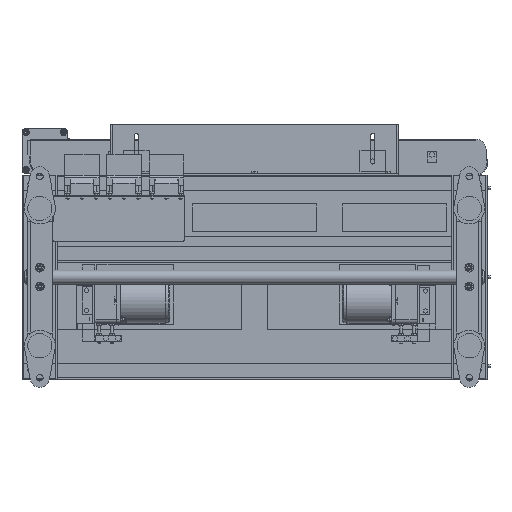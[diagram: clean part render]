
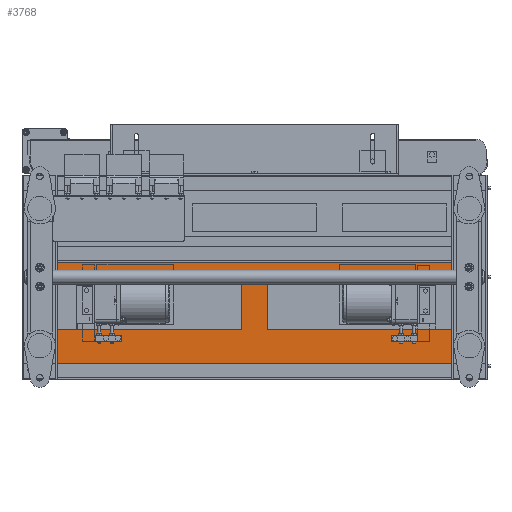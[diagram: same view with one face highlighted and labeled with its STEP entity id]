
A CAD part, front view. The second image highlights one B-rep face of the part: STEP entity #3768.
In plain terms, the highlighted planar face has unit normal (0, -1, 0).
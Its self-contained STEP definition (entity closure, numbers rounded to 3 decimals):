
#3768=ADVANCED_FACE('',(#10054,#10055,#10056),#10053,.T.);
#10053=PLANE('',#34744);
#10054=FACE_OUTER_BOUND('',#34745,.T.);
#10055=FACE_BOUND('',#34746,.T.);
#10056=FACE_BOUND('',#34747,.T.);
#34741=CARTESIAN_POINT('',(922.,-93.,-257.));
#34742=DIRECTION('',(0.,-1.,0.));
#34743=DIRECTION('',(0.,0.,1.));
#34744=AXIS2_PLACEMENT_3D('',#34741,#34742,#34743);
#34745=EDGE_LOOP('',(#50818,#50819,#50820,#50821));
#34746=EDGE_LOOP('',(#50822,#50823,#50824,#50825,#50826,#50827));
#34747=EDGE_LOOP('',(#50828,#50829,#50830,#50831,#50832,#50833));
#50818=ORIENTED_EDGE('',*,*,#63279,.F.);
#50819=ORIENTED_EDGE('',*,*,#63275,.F.);
#50820=ORIENTED_EDGE('',*,*,#63280,.F.);
#50821=ORIENTED_EDGE('',*,*,#63265,.T.);
#50822=ORIENTED_EDGE('',*,*,#63281,.T.);
#50823=ORIENTED_EDGE('',*,*,#63282,.T.);
#50824=ORIENTED_EDGE('',*,*,#63283,.T.);
#50825=ORIENTED_EDGE('',*,*,#63284,.T.);
#50826=ORIENTED_EDGE('',*,*,#63285,.T.);
#50827=ORIENTED_EDGE('',*,*,#63286,.T.);
#50828=ORIENTED_EDGE('',*,*,#63287,.T.);
#50829=ORIENTED_EDGE('',*,*,#63288,.T.);
#50830=ORIENTED_EDGE('',*,*,#63289,.T.);
#50831=ORIENTED_EDGE('',*,*,#63290,.T.);
#50832=ORIENTED_EDGE('',*,*,#63291,.T.);
#50833=ORIENTED_EDGE('',*,*,#63292,.T.);
#63265=EDGE_CURVE('',#76857,#76850,#76858,.T.);
#63275=EDGE_CURVE('',#76917,#76910,#76924,.T.);
#63279=EDGE_CURVE('',#76910,#76850,#76950,.T.);
#63280=EDGE_CURVE('',#76857,#76917,#76956,.T.);
#63281=EDGE_CURVE('',#76962,#76963,#76964,.T.);
#63282=EDGE_CURVE('',#76963,#76970,#76971,.T.);
#63283=EDGE_CURVE('',#76970,#76977,#76978,.T.);
#63284=EDGE_CURVE('',#76977,#76984,#76985,.T.);
#63285=EDGE_CURVE('',#76984,#76991,#76992,.T.);
#63286=EDGE_CURVE('',#76991,#76962,#76998,.T.);
#63287=EDGE_CURVE('',#77004,#77005,#77006,.T.);
#63288=EDGE_CURVE('',#77005,#77012,#77013,.T.);
#63289=EDGE_CURVE('',#77012,#77019,#77020,.T.);
#63290=EDGE_CURVE('',#77019,#77026,#77027,.T.);
#63291=EDGE_CURVE('',#77026,#77033,#77034,.T.);
#63292=EDGE_CURVE('',#77033,#77004,#77040,.T.);
#76850=VERTEX_POINT('',#118422);
#76857=VERTEX_POINT('',#118426);
#76858=LINE('',#118427,#118428);
#76910=VERTEX_POINT('',#118455);
#76917=VERTEX_POINT('',#118459);
#76924=LINE('',#118463,#118464);
#76950=LINE('',#118477,#118478);
#76956=LINE('',#118480,#118481);
#76962=VERTEX_POINT('',#118483);
#76963=VERTEX_POINT('',#118484);
#76964=LINE('',#118485,#118486);
#76970=VERTEX_POINT('',#118488);
#76971=LINE('',#118489,#118490);
#76977=VERTEX_POINT('',#118492);
#76978=LINE('',#118493,#118494);
#76984=VERTEX_POINT('',#118496);
#76985=LINE('',#118497,#118498);
#76991=VERTEX_POINT('',#118500);
#76992=LINE('',#118501,#118502);
#76998=LINE('',#118504,#118505);
#77004=VERTEX_POINT('',#118507);
#77005=VERTEX_POINT('',#118508);
#77006=LINE('',#118509,#118510);
#77012=VERTEX_POINT('',#118512);
#77013=LINE('',#118513,#118514);
#77019=VERTEX_POINT('',#118516);
#77020=LINE('',#118517,#118518);
#77026=VERTEX_POINT('',#118520);
#77027=LINE('',#118521,#118522);
#77033=VERTEX_POINT('',#118524);
#77034=LINE('',#118525,#118526);
#77040=LINE('',#118528,#118529);
#118422=CARTESIAN_POINT('',(3.,-93.,-21.));
#118426=CARTESIAN_POINT('',(912.,-93.,-21.));
#118427=CARTESIAN_POINT('',(912.,-93.,-21.));
#118428=VECTOR('',#118429,909.);
#118429=DIRECTION('',(-1.,0.,0.));
#118455=CARTESIAN_POINT('',(3.,-93.,-247.));
#118459=CARTESIAN_POINT('',(912.,-93.,-247.));
#118463=CARTESIAN_POINT('',(912.,-93.,-247.));
#118464=VECTOR('',#118465,909.);
#118465=DIRECTION('',(-1.,0.,0.));
#118477=CARTESIAN_POINT('',(3.,-93.,-247.));
#118478=VECTOR('',#118479,226.);
#118479=DIRECTION('',(0.,0.,1.));
#118480=CARTESIAN_POINT('',(912.,-93.,-21.));
#118481=VECTOR('',#118482,226.);
#118482=DIRECTION('',(0.,0.,-1.));
#118483=CARTESIAN_POINT('',(432.5,-93.,-39.));
#118484=CARTESIAN_POINT('',(432.5,-93.,-154.));
#118485=CARTESIAN_POINT('',(432.5,-93.,-39.));
#118486=VECTOR('',#118487,115.);
#118487=DIRECTION('',(0.,0.,-1.));
#118488=CARTESIAN_POINT('',(40.,-93.,-154.));
#118489=CARTESIAN_POINT('',(432.5,-93.,-154.));
#118490=VECTOR('',#118491,392.5);
#118491=DIRECTION('',(-1.,0.,0.));
#118492=CARTESIAN_POINT('',(40.,-93.,-54.));
#118493=CARTESIAN_POINT('',(40.,-93.,-154.));
#118494=VECTOR('',#118495,100.);
#118495=DIRECTION('',(0.,0.,1.));
#118496=CARTESIAN_POINT('',(138.,-93.,-54.));
#118497=CARTESIAN_POINT('',(40.,-93.,-54.));
#118498=VECTOR('',#118499,98.);
#118499=DIRECTION('',(1.,0.,0.));
#118500=CARTESIAN_POINT('',(138.,-93.,-39.));
#118501=CARTESIAN_POINT('',(138.,-93.,-54.));
#118502=VECTOR('',#118503,15.);
#118503=DIRECTION('',(0.,0.,1.));
#118504=CARTESIAN_POINT('',(138.,-93.,-39.));
#118505=VECTOR('',#118506,294.5);
#118506=DIRECTION('',(1.,0.,0.));
#118507=CARTESIAN_POINT('',(482.5,-93.,-154.));
#118508=CARTESIAN_POINT('',(482.5,-93.,-39.));
#118509=CARTESIAN_POINT('',(482.5,-93.,-154.));
#118510=VECTOR('',#118511,115.);
#118511=DIRECTION('',(0.,0.,1.));
#118512=CARTESIAN_POINT('',(783.,-93.,-39.));
#118513=CARTESIAN_POINT('',(482.5,-93.,-39.));
#118514=VECTOR('',#118515,300.5);
#118515=DIRECTION('',(1.,0.,0.));
#118516=CARTESIAN_POINT('',(783.,-93.,-54.));
#118517=CARTESIAN_POINT('',(783.,-93.,-39.));
#118518=VECTOR('',#118519,15.);
#118519=DIRECTION('',(0.,0.,-1.));
#118520=CARTESIAN_POINT('',(875.,-93.,-54.));
#118521=CARTESIAN_POINT('',(783.,-93.,-54.));
#118522=VECTOR('',#118523,92.);
#118523=DIRECTION('',(1.,0.,0.));
#118524=CARTESIAN_POINT('',(875.,-93.,-154.));
#118525=CARTESIAN_POINT('',(875.,-93.,-54.));
#118526=VECTOR('',#118527,100.);
#118527=DIRECTION('',(0.,0.,-1.));
#118528=CARTESIAN_POINT('',(875.,-93.,-154.));
#118529=VECTOR('',#118530,392.5);
#118530=DIRECTION('',(-1.,0.,0.));
